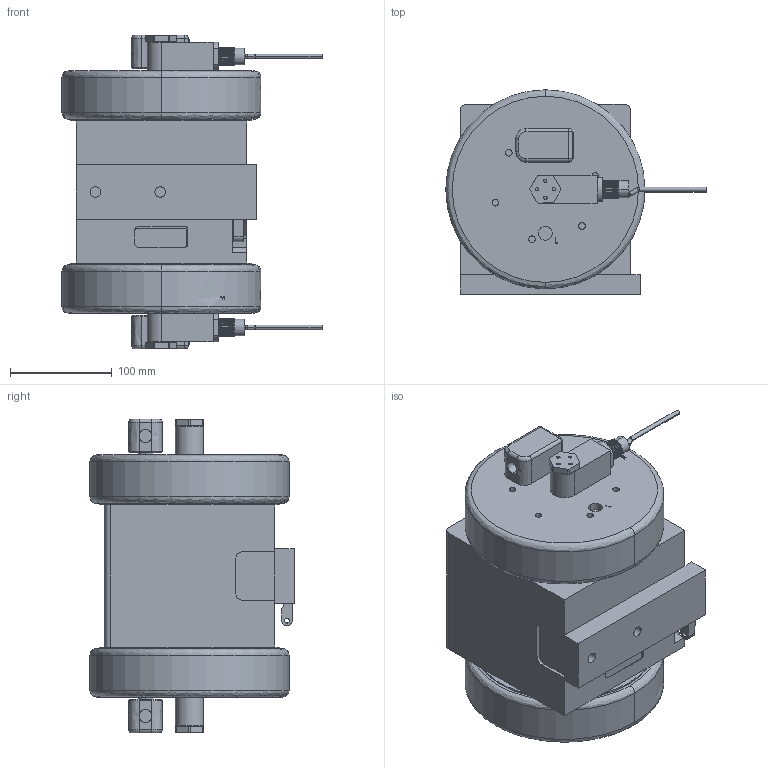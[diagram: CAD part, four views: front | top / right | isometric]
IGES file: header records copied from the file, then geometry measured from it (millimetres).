
Start section: SolidWorks IGES file using analytic representation for surfaces
Global section: file name: \\server\Users\Karen.Bodily\My Documents\PXU Defeatured\PXU060_solid model.IGS; native system: SolidWorks 2012; preprocessor: SolidWorks 2012; author: karen.bodily; date: 130724.162009; units: inch
Bounding box: 255.78 x 200.58 x 308.11 mm (x, y, z)
Volume: 7152993 mm3; surface area: 295942.6 mm2
Topology: 1 solids, 1 shells, 1362 faces, 3379 edges, 2167 vertices
Faces by surface type: plane 820, revolution 422, bspline 120
